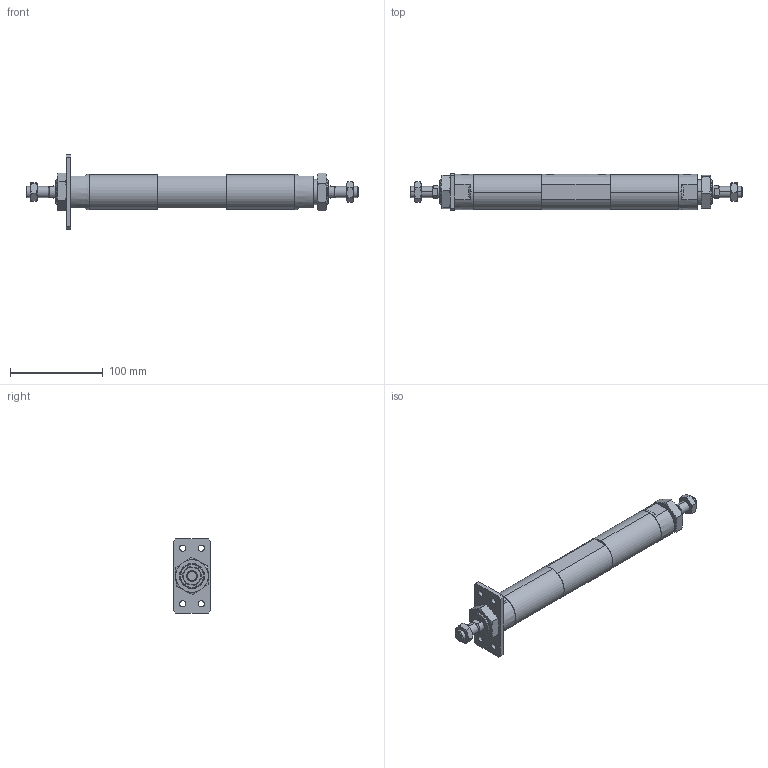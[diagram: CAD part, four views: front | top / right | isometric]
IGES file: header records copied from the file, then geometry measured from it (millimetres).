
Start section: SolidWorks IGES file using analytic representation for surfaces
Global section: file name: C:\Users\Toshiba\Desktop\JGD7-32-25-25-A.IGS; native system: SolidWorks 2014; preprocessor: SolidWorks 2014; author: Toshiba; date: 160419.152342; units: millimetre
Bounding box: 358 x 40 x 80 mm (x, y, z)
Surface area: 64675.4 mm2 (no closed solid volume)
Topology: 0 solids, 0 shells, 192 faces, 3348 edges, 3340 vertices
Faces by surface type: bspline 118, revolution 74
